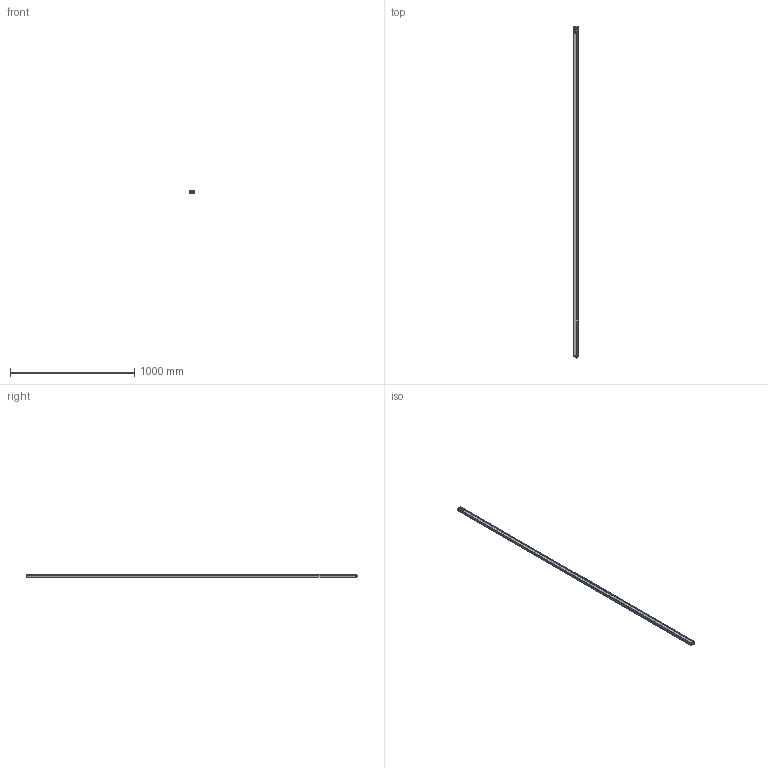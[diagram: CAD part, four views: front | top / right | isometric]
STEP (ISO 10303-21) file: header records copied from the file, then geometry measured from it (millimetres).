
FILE_DESCRIPTION(/* description */ (''),/* implementation_level */ '2;1');
FILE_NAME(/* name */ 'C:\Users\andre\SynologyDrive\Optoscan\Libreria Componenti\00 - Barriere\Barriera sorgente\Argo_2640_RX.stp',/* time_stamp */ '2021-04-23T12:49:32+02:00',/* author */ ('andre'),/* organization */ (''),/* preprocessor_version */ 'ST-DEVELOPER v18',/* originating_system */ 'Autodesk Inventor 2020',/* authorisation */ '');
FILE_SCHEMA (('AUTOMOTIVE_DESIGN { 1 0 10303 214 3 1 1 }'));
Length unit declared in the file: millimetre
Products named in the file (1): Argo_2640_RX
Bounding box: 40.5 x 2673.3 x 20.75 mm (x, y, z)
Volume: 524978.4 mm3; surface area: 698452.7 mm2
Topology: 1 solids, 1 shells, 692 faces, 1898 edges, 1217 vertices
Faces by surface type: plane 319, cylinder 195, bspline 94, torus 70, cone 8, sphere 6
Full cylindrical faces by diameter (mm): 1 x4, 2.459 x4, 2.5 x4, 3 x4, 3.5 x4, 5.5 x4, 8 x1, 10.5 x2, 11.75 x9, 15.7 x1, 17.5 x1
Entity records: 28165 total; most frequent: CARTESIAN_POINT 10195, ORIENTED_EDGE 3778, DIRECTION 3387, EDGE_CURVE 1889, VERTEX_POINT 1217, AXIS2_PLACEMENT_3D 1183, LINE 1021, VECTOR 1021
